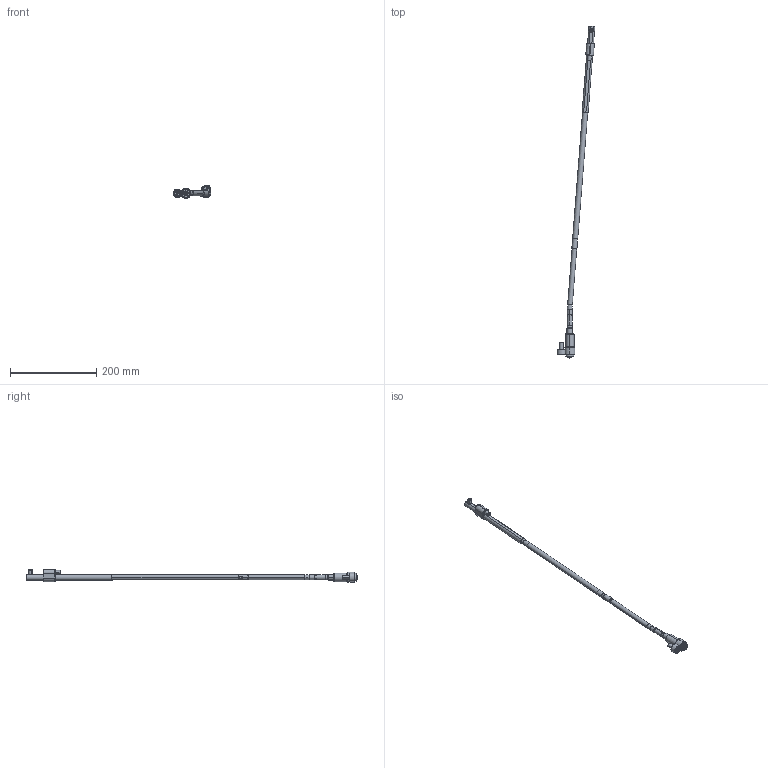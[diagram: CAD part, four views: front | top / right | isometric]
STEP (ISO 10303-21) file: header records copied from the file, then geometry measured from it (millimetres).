
FILE_DESCRIPTION (( 'STEP AP214' ), '1' );
FILE_NAME ('WL120125-EJE 4,5°.STEP', '2021-03-19T15:38:25', ( '' ), ( '' ), 'SwSTEP 2.0', 'SolidWorks 2019', '' );
FILE_SCHEMA (( 'AUTOMOTIVE_DESIGN' ));
Length unit declared in the file: millimetre
Products named in the file (17): Web-WL12-F00.SLDPRT; Web-WL12-A2; Web-WL12-F01; Web-WL12-A8; Web-WL12-A3; WL120100-D; 8WL12EJEP; WL120100-E; WL120100-B; 3IMAN5X3-150_con sellador; WL120125-EJE 4,5°; WL120100-B1; Web-WL12-XX_ON-WL120125-4,5; 1DIN912645_DIN 912 M6 x 45 --- 45C; 9DR2808-TOR; Web-WL12-A1; 1DIN912820_DIN 912 M8 x 20 --- 20C
Assembly tree (16 placements, depth 3):
  WL120125-EJE 4,5°
    Web-WL12-A8
    Web-WL12-XX_ON-WL120125-4,5
    Web-WL12-A3
    Web-WL12-A2
    Web-WL12-A1
    Web-WL12-F00.SLDPRT
      Web-WL12-F01
      1DIN912820_DIN 912 M8 x 20 --- 20C
      1DIN912645_DIN 912 M6 x 45 --- 45C
    WL120100-D
    8WL12EJEP
    WL120100-E
    9DR2808-TOR
    WL120100-B
      WL120100-B1
      3IMAN5X3-150_con sellador
Bounding box: 87.7 x 771.51 x 29.9 mm (x, y, z)
Volume: 116548.1 mm3; surface area: 51029.9 mm2
Topology: 15 solids, 15 shells, 432 faces, 906 edges, 525 vertices
Faces by surface type: plane 139, cylinder 123, cone 120, torus 50
Entity records: 13661 total; most frequent: DIRECTION 2240, CARTESIAN_POINT 2104, ORIENTED_EDGE 1788, AXIS2_PLACEMENT_3D 929, EDGE_CURVE 894, VERTEX_POINT 525, EDGE_LOOP 477, CIRCLE 476
